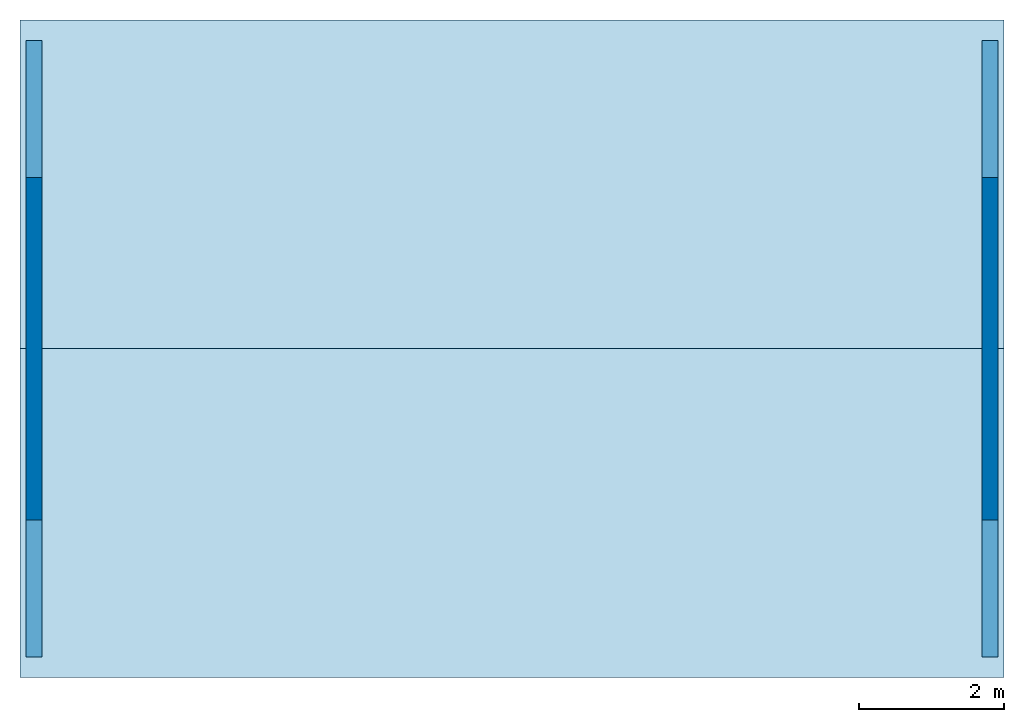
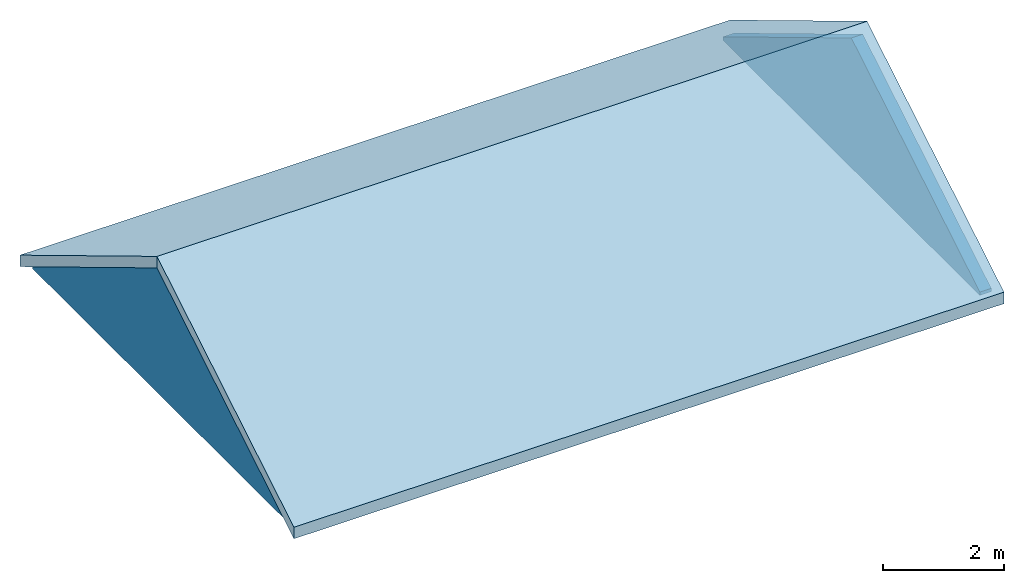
# One storey: 2 slabs, 2 walls, 1 element without a shape of its own.
"""IFC2X3 building model written with IfcOpenShell, lengths in metres."""

from ifc_helpers import new_model, entity, si_unit, converted_unit, derived_unit, direction, frame, frame_2d, origin, origin_2d_with_axis, place, context, subcontext, project, spatial, polyline, rectangle, extrude, clip, bounded_halfspace, material, layer, layer_set, layer_usage, type_object, element, aggregate, save


model = new_model("IFC2X3")

# Units and contexts
model_context = context("Model", 3, precision=1e-05, world=origin(), true_north=direction((6.12303176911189e-17, 1.0)))
body_context = subcontext(model_context, "Body", "Model", "MODEL_VIEW")
ifc_project = project(units=[si_unit("LENGTHUNIT", "METRE"), si_unit("AREAUNIT", "SQUARE_METRE"), si_unit("VOLUMEUNIT", "CUBIC_METRE"), converted_unit("PLANEANGLEUNIT", "DEGREE", entity("IfcRatioMeasure", 0.0174532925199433), si_unit("PLANEANGLEUNIT", "RADIAN"), dimensions=[0, 0, 0, 0, 0, 0, 0]), si_unit("MASSUNIT", "GRAM", prefix="KILO"), si_unit("TIMEUNIT", "SECOND"), si_unit("FREQUENCYUNIT", "HERTZ"), si_unit("THERMODYNAMICTEMPERATUREUNIT", "DEGREE_CELSIUS"), derived_unit("THERMALTRANSMITTANCEUNIT", [(si_unit("MASSUNIT", "GRAM", prefix="KILO"), 1), (si_unit("THERMODYNAMICTEMPERATUREUNIT", "KELVIN"), -1), (si_unit("TIMEUNIT", "SECOND"), -3)]), derived_unit("VOLUMETRICFLOWRATEUNIT", [(si_unit("LENGTHUNIT", "METRE"), 3), (si_unit("TIMEUNIT", "SECOND"), -1)]), si_unit("ELECTRICCURRENTUNIT", "AMPERE"), si_unit("ELECTRICVOLTAGEUNIT", "VOLT"), si_unit("POWERUNIT", "WATT"), si_unit("FORCEUNIT", "NEWTON", prefix="KILO"), si_unit("ILLUMINANCEUNIT", "LUX"), si_unit("LUMINOUSFLUXUNIT", "LUMEN"), si_unit("LUMINOUSINTENSITYUNIT", "CANDELA"), derived_unit("USERDEFINED", [(si_unit("MASSUNIT", "GRAM", prefix="KILO"), -1), (si_unit("LENGTHUNIT", "METRE"), -2), (si_unit("TIMEUNIT", "SECOND"), 3), (si_unit("LUMINOUSFLUXUNIT", "LUMEN"), 1)]), derived_unit("LINEARVELOCITYUNIT", [(si_unit("LENGTHUNIT", "METRE"), 1), (si_unit("TIMEUNIT", "SECOND"), -1)]), si_unit("PRESSUREUNIT", "PASCAL"), derived_unit("USERDEFINED", [(si_unit("LENGTHUNIT", "METRE"), -2), (si_unit("MASSUNIT", "GRAM", prefix="KILO"), 1), (si_unit("TIMEUNIT", "SECOND"), -2)])], contexts=[model_context])

# Site, building, storey
site_placement = place(None, origin())
site = spatial("IfcSite", under=ifc_project, at=site_placement, Name="Surface", CompositionType="ELEMENT")
building_placement = place(site_placement, origin())
building = spatial("IfcBuilding", under=site, at=building_placement, CompositionType="ELEMENT")
storey_placement = place(building_placement, frame((0.0, 0.0, 5.3)))
storey = spatial("IfcBuildingStorey", under=building, at=storey_placement, Name="Plan de couverture", CompositionType="ELEMENT", Elevation=5.3)

# Roof, slabs
roof_placement = place(storey_placement, frame((-11.7160888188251, -3.09574421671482, -0.100258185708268)))
roof = element("IfcRoof", 1, at=roof_placement, inside=storey, Name="Toit de base:Toit - 200 mm", ObjectType="Toit de base:Toit - 200 mm", ShapeType="NOTDEFINED")
ifc_material_1 = material(Name="Toit par défaut")
ifc_layer_1 = layer(ifc_material_1, 0.2)
ifc_layer_set_1 = layer_set([ifc_layer_1], Name="Toit de base:Toit - 200 mm")
slab_1_placement = place(roof_placement, origin())
slab_1 = element("IfcSlab", 2, at=slab_1_placement, material=ifc_layer_set_1, Name="Toit de base:Toit - 200 mm", ObjectType="Toit de base:Toit - 200 mm", PredefinedType="ROOF", context=body_context, shape_type="SweptSolid", body=[
    extrude(rectangle(XDim=13.56, YDim=5.28484928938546, at=origin_2d_with_axis()), frame((6.77999999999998, 6.79500000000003, 1.36094930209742), z_axis=(0.0, 0.515038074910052, 0.857167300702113), x_axis=(1.0, 0.0, 0.0)), (0.0, -0.515038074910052, 0.857167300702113), 0.233326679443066),
])
slab_2_placement = place(roof_placement, origin())
slab_2 = element("IfcSlab", 3, at=slab_2_placement, material=ifc_layer_set_1, Name="Toit de base:Toit - 200 mm", ObjectType="Toit de base:Toit - 200 mm", PredefinedType="ROOF", context=body_context, shape_type="SweptSolid", body=[
    extrude(rectangle(XDim=5.28484928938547, YDim=13.56, at=frame_2d((0.0, 0.0), x_axis=(0.0, 1.0))), frame((6.77999999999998, 2.26500000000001, 1.36094930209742), z_axis=(0.0, -0.515038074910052, 0.857167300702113), x_axis=(1.0, 0.0, 0.0)), (0.0, 0.515038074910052, 0.857167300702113), 0.233326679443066),
])
aggregate(roof, [slab_1, slab_2])

# Walls
ifc_material_2 = material(Name="Maçonnerie - Enduit")
ifc_layer_2 = layer(ifc_material_2, 0.02)
ifc_material_3 = material(Name="Maçonnerie - Parpaing")
ifc_layer_3 = layer(ifc_material_3, 0.2)
ifc_layer_set_2 = layer_set([ifc_layer_2, ifc_layer_3], Name="Mur de base:Mur de base Ext. Parpaing 20")
ifc_layer_usage_1 = layer_usage(ifc_layer_set_2, "AXIS2", "NEGATIVE", 0.11)
wall_type = type_object("IfcWallType", Name="Mur de base:Mur de base Ext. Parpaing 20", PredefinedType="STANDARD", material=ifc_layer_set_2)
wall_1_placement = place(storey_placement, frame((1.65391118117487, 5.68425578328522, 0.0), z_axis=(0.0, 0.0, 1.0), x_axis=(0.0, -1.0, 0.0)))
element("IfcWallStandardCase", 4, at=wall_1_placement, inside=storey, type_object=wall_type, material=ifc_layer_usage_1, Name="Mur de base:Mur de base Ext. Parpaing 20", ObjectType="Mur de base:Mur de base Ext. Parpaing 20", context=body_context, shape_type="Clipping", body=[
    clip(clip(extrude(rectangle(XDim=8.50000000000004, YDim=0.22, at=frame_2d((4.25000000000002, 0.0), x_axis=(-1.0, 0.0))), origin(), (0.0, 0.0, 1.0), 2.62164041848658), bounded_halfspace(frame((0.0, -0.11, 0.067982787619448), z_axis=(-0.515038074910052, 0.0, 0.857167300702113), x_axis=(0.0, -1.0, 0.0)), False, frame((0.0, -0.11, 0.067982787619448)), polyline([(0.0, 0.0), (4.25000000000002, 0.0), (4.25000000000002, 0.22), (0.0, 0.22), (0.0, 0.0)]))), bounded_halfspace(frame((4.25000000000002, -0.11, 2.62164041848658), z_axis=(0.515038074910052, 0.0, 0.857167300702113), x_axis=(0.0, 1.0, 0.0)), False, frame((4.25000000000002, -0.11, 2.62164041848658)), polyline([(0.0, 0.0), (4.25000000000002, 0.0), (4.25000000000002, 0.22), (0.0, 0.22), (0.0, 0.0)]))),
])
ifc_layer_usage_2 = layer_usage(ifc_layer_set_2, "AXIS2", "NEGATIVE", 0.11)
wall_2_placement = place(storey_placement, frame((-11.5260888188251, -2.81574421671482, 0.0), z_axis=(0.0, 0.0, 1.0), x_axis=(0.0, 1.0, 0.0)))
element("IfcWallStandardCase", 5, at=wall_2_placement, inside=storey, type_object=wall_type, material=ifc_layer_usage_2, Name="Mur de base:Mur de base Ext. Parpaing 20", ObjectType="Mur de base:Mur de base Ext. Parpaing 20", context=body_context, shape_type="Clipping", body=[
    clip(clip(extrude(rectangle(XDim=8.50000000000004, YDim=0.220000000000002, at=frame_2d((4.25000000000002, 0.0), x_axis=(-1.0, 0.0))), origin(), (0.0, 0.0, 1.0), 2.62164041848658), bounded_halfspace(frame((4.25000000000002, -0.109999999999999, 2.62164041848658), z_axis=(0.515038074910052, 0.0, 0.857167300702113), x_axis=(0.0, 1.0, 0.0)), False, frame((4.25000000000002, -0.109999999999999, 2.62164041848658)), polyline([(0.0, 0.0), (4.25000000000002, 0.0), (4.25000000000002, 0.22), (0.0, 0.22), (0.0, 0.0)]))), bounded_halfspace(frame((0.0, -0.109999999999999, 0.0679827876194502), z_axis=(-0.515038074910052, 0.0, 0.857167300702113), x_axis=(0.0, -1.0, 0.0)), False, frame((0.0, -0.109999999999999, 0.0679827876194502)), polyline([(0.0, 0.0), (4.25000000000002, 0.0), (4.25000000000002, 0.22), (0.0, 0.22), (0.0, 0.0)]))),
])

save(model, "model.ifc")
